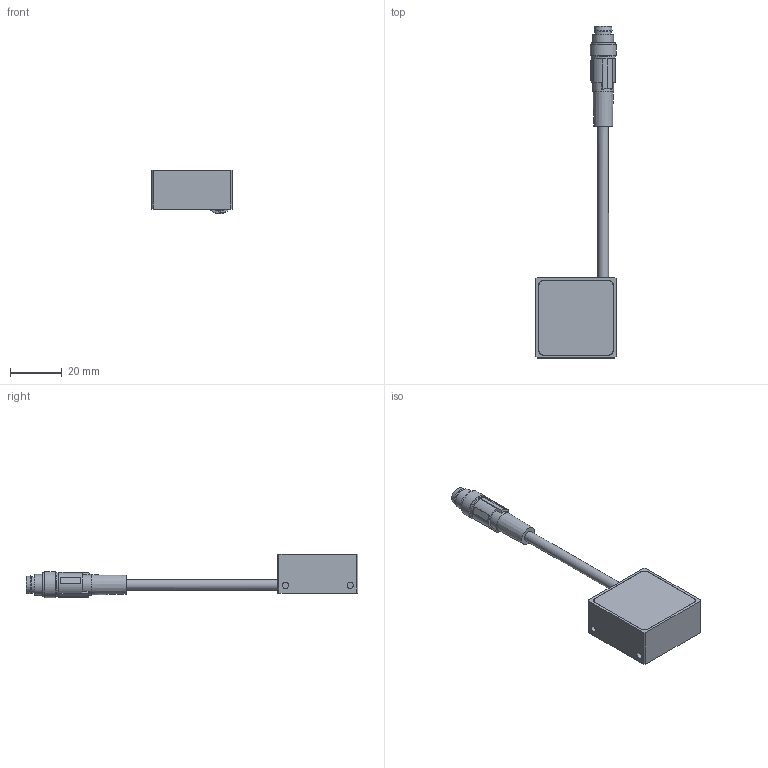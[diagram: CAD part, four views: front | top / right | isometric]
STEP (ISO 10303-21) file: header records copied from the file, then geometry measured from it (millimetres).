
FILE_DESCRIPTION(/* description */ ('Unknown','CAx-IF Rec.Pracs.---Representation and Presentation of Product Manufacturing Information (PMI)---4.0---2014-10-13','CAx-IF Rec.Pracs.---3D Tessellated Geometry---0.4---2014-09-14','2;1'),/* implementation_level */ '2;1');
FILE_NAME(/* name */ 'BF25x25',/* time_stamp */ '2021-01-19T08:36:16+01:00',/* author */ ('AW'),/* organization */ ('iiM AG'),/* preprocessor_version */ 'ST-DEVELOPER v16.7',/* originating_system */ 'DEX',/* authorisation */ $);
FILE_SCHEMA (('AP242_MANAGED_MODEL_BASED_3D_ENGINEERING_MIM_LF { 1 0 10303 442 1 1 4 }'));
Length unit declared in the file: millimetre
Products named in the file (1): BF25x25
Bounding box: 31 x 128.15 x 16.8 mm (x, y, z)
Volume: 10525.3 mm3; surface area: 9793.2 mm2
Topology: 2 solids, 2 shells, 350 faces, 883 edges, 585 vertices
Faces by surface type: plane 243, cylinder 79, bspline 23, cone 4, torus 1
Full cylindrical faces by diameter (mm): 1 x4, 2 x4, 2.459 x4, 4.1 x2, 5.7 x1, 6.35 x1, 8 x2, 9 x1, 9.3 x2, 10 x1
Entity records: 14305 total; most frequent: CARTESIAN_POINT 3729, ORIENTED_EDGE 1696, DIRECTION 1598, EDGE_CURVE 848, LINE 610, VECTOR 610, VERTEX_POINT 579, AXIS2_PLACEMENT_3D 494
